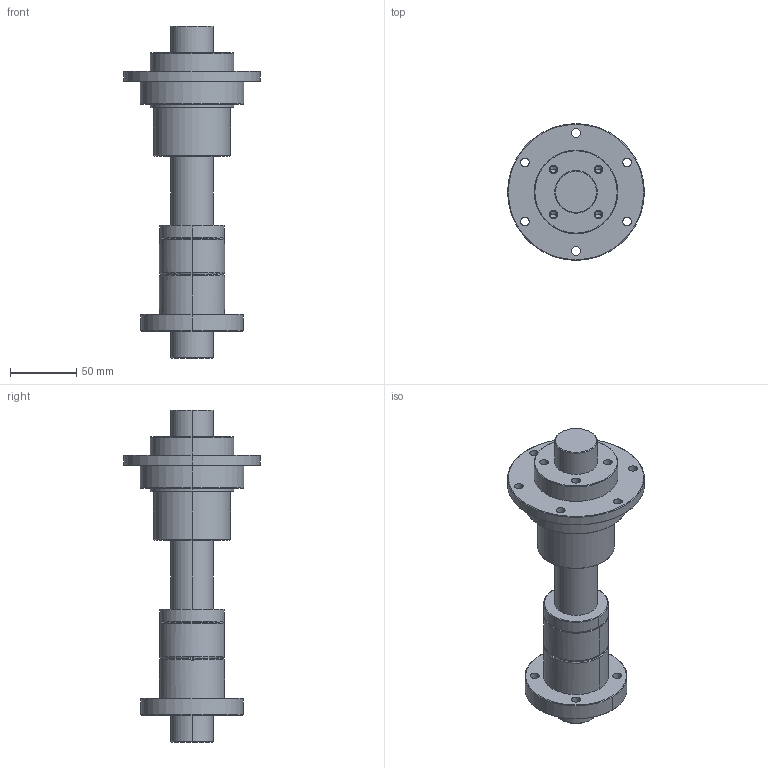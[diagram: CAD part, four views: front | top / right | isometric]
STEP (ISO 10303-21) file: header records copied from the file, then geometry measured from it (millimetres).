
FILE_DESCRIPTION (( 'STEP AP203' ), '1' );
FILE_NAME ('RSLY3232.STEP', '2014-11-13T05:20:25', ( '' ), ( '' ), 'SwSTEP 2.0', 'SolidWorks 2014', '' );
FILE_SCHEMA (( 'CONFIG_CONTROL_DESIGN' ));
Length unit declared in the file: millimetre
Products named in the file (4): SC32; RFSY3232; SLF32; RSLY3232
Assembly tree (3 placements, depth 2):
  RSLY3232
    SC32
    RFSY3232
    SLF32
Bounding box: 103 x 103 x 250 mm (x, y, z)
Volume: 548590.1 mm3; surface area: 102650.5 mm2
Topology: 4 solids, 4 shells, 161 faces, 395 edges, 245 vertices
Faces by surface type: cylinder 86, plane 31, cone 28, torus 16
Entity records: 5376 total; most frequent: CARTESIAN_POINT 991, DIRECTION 924, ORIENTED_EDGE 774, AXIS2_PLACEMENT_3D 390, EDGE_CURVE 387, VERTEX_POINT 245, CIRCLE 223, EDGE_LOOP 202
